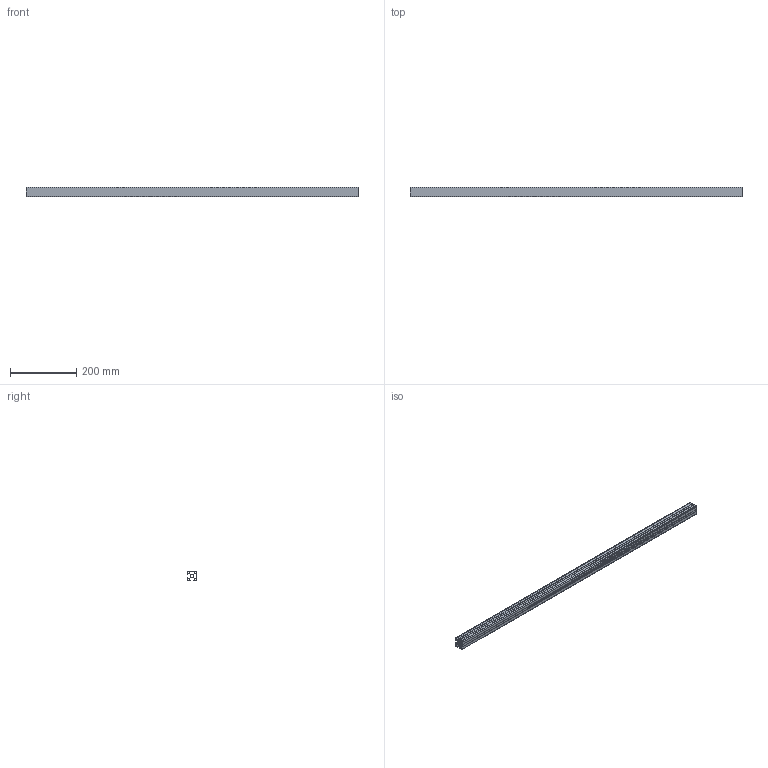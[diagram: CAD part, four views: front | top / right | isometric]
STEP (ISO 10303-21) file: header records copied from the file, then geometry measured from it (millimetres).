
FILE_DESCRIPTION (( 'STEP AP214' ), '1' );
FILE_NAME ('1.0179 30X30 2SS musta 1000mm.STEP', '2026-03-13T06:26:15', ( '' ), ( '' ), 'SwSTEP 2.0', 'SolidWorks 2025', '' );
FILE_SCHEMA (( 'AUTOMOTIVE_DESIGN' ));
Length unit declared in the file: millimetre
Products named in the file (1): 1.0179 30X30 2SS musta 1000mm
Bounding box: 1000 x 30 x 30 mm (x, y, z)
Volume: 283653.3 mm3; surface area: 365862.6 mm2
Topology: 1 solids, 1 shells, 127 faces, 375 edges, 250 vertices
Faces by surface type: plane 70, cylinder 57
Entity records: 4314 total; most frequent: CARTESIAN_POINT 753, ORIENTED_EDGE 750, DIRECTION 745, EDGE_CURVE 375, VECTOR 261, LINE 261, VERTEX_POINT 250, AXIS2_PLACEMENT_3D 242
